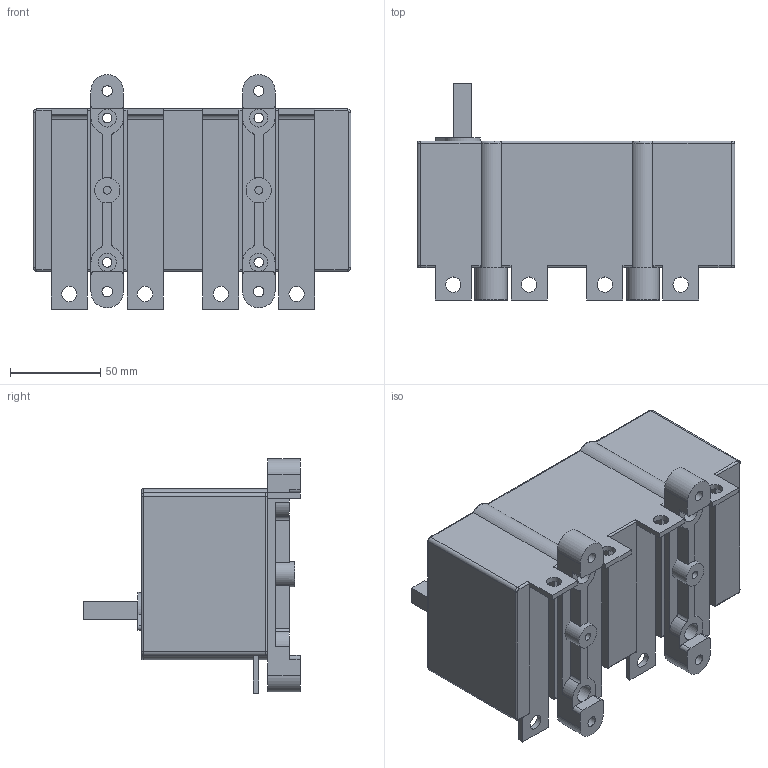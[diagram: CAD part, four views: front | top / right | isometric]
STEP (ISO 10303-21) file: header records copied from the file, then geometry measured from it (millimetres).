
FILE_DESCRIPTION(/* description */ (''),/* implementation_level */ '2;1');
FILE_NAME(/* name */ 'RA160 P3 NA.stp',/* time_stamp */ '2021-08-17T13:50:43+02:00',/* author */ (''),/* organization */ (''),/* preprocessor_version */ 'ST-DEVELOPER v18.1',/* originating_system */ 'SIEMENS PLM Software NX 1965',/* authorisation */ '');
FILE_SCHEMA (('AUTOMOTIVE_DESIGN { 1 0 10303 214 3 1 1 1 }'));
Length unit declared in the file: millimetre
Products named in the file (1): RA160 P3 NA_stp
Bounding box: 176 x 120 x 130 mm (x, y, z)
Volume: 1126804.3 mm3; surface area: 99692.1 mm2
Topology: 1 solids, 1 shells, 218 faces, 574 edges, 366 vertices
Faces by surface type: plane 112, cylinder 94, torus 7, bspline 5
Full cylindrical faces by diameter (mm): 4.3 x2, 5.3 x4, 5.8 x4, 8.5 x8, 10 x8, 14 x2
Entity records: 6691 total; most frequent: CARTESIAN_POINT 1274, DIRECTION 1140, ORIENTED_EDGE 1076, EDGE_CURVE 538, AXIS2_PLACEMENT_3D 404, VERTEX_POINT 358, LINE 332, VECTOR 332
